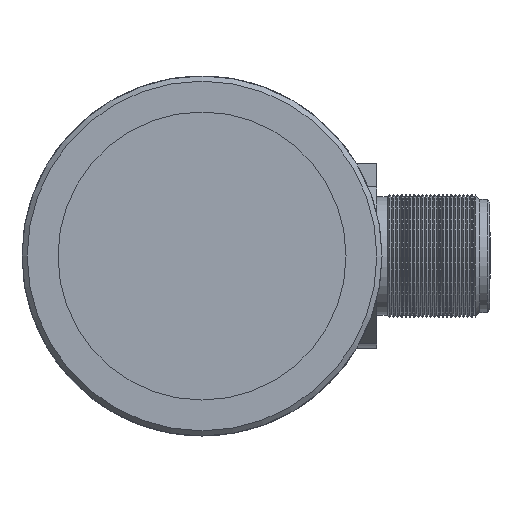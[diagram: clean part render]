
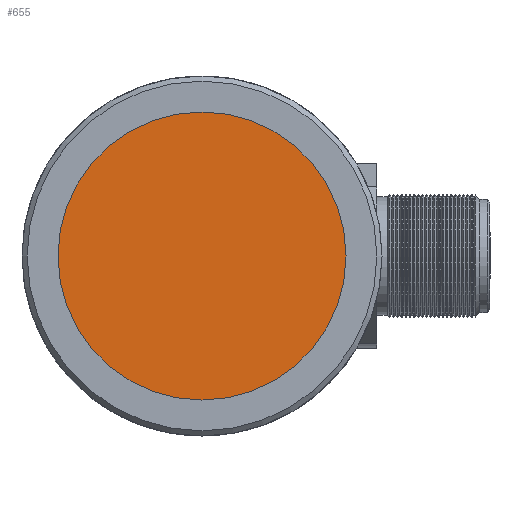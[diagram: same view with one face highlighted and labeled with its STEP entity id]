
A CAD part, left-side view. The second image highlights one B-rep face of the part: STEP entity #655.
In plain terms, the highlighted planar face has unit normal (-1, 0, 0).
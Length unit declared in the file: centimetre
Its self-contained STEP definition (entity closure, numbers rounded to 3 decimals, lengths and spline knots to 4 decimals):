
#616=CARTESIAN_POINT('',(-4.1,0.,1.4));
#617=VERTEX_POINT('',#616);
#624=CARTESIAN_POINT('',(-4.1,0.,-1.4));
#625=VERTEX_POINT('',#624);
#626=CARTESIAN_POINT('',(-4.1,0.,0.));
#627=DIRECTION('',(-1.,-0.,-0.));
#628=DIRECTION('',(0.,0.,-1.));
#629=AXIS2_PLACEMENT_3D('',#626,#627,#628);
#630=CIRCLE('',#629,1.4);
#631=EDGE_CURVE('',#625,#617,#630,.T.);
#633=CARTESIAN_POINT('',(-4.1,0.,0.));
#634=DIRECTION('',(-1.,-0.,-0.));
#635=DIRECTION('',(0.,0.,-1.));
#636=AXIS2_PLACEMENT_3D('',#633,#634,#635);
#637=CIRCLE('',#636,1.4);
#638=EDGE_CURVE('',#617,#625,#637,.T.);
#646=CARTESIAN_POINT('',(-4.1,0.,0.));
#647=DIRECTION('',(1.,0.,0.));
#648=DIRECTION('',(0.,0.,-1.));
#649=AXIS2_PLACEMENT_3D('',#646,#647,#648);
#650=PLANE('',#649);
#651=ORIENTED_EDGE('',*,*,#631,.T.);
#652=ORIENTED_EDGE('',*,*,#638,.T.);
#653=EDGE_LOOP('',(#651,#652));
#654=FACE_BOUND('',#653,.T.);
#655=ADVANCED_FACE('',(#654),#650,.F.);
